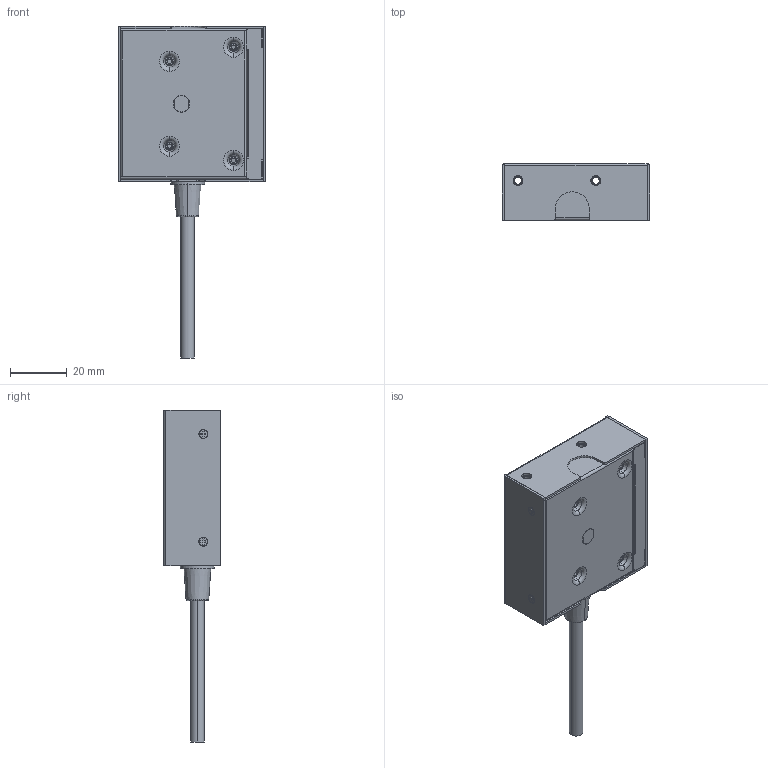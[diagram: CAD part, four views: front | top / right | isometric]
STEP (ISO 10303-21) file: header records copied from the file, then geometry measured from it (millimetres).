
FILE_DESCRIPTION((''),'2;1');
FILE_NAME('B04020-A01ASSY_ASM','2013-08-06T',('skomi0303'),(''),'PRO/ENGINEER BY PARAMETRIC TECHNOLOGY CORPORATION, 2005290','PRO/ENGINEER BY PARAMETRIC TECHNOLOGY CORPORATION, 2005290','');
FILE_SCHEMA(('CONFIG_CONTROL_DESIGN'));
Length unit declared in the file: millimetre
Products named in the file (12): F-70_MAIN_CHASSIS; B96009-05; BUSH; F-70_HOLDER; F-70_HOLDER_04; F-70_HOLDER_KOTEI; F-70_SCREW_2004; F-70_L_COVER; F-70_L_PLAMASK; F-70_L_MIRROR; NEJI_M2_SARA; B04020-A01ASSY_ASM
Assembly tree (14 placements, depth 2):
  B04020-A01ASSY_ASM
    F-70_MAIN_CHASSIS
    B96009-05
    BUSH
    F-70_HOLDER
    F-70_HOLDER_04
    F-70_HOLDER_KOTEI
    F-70_SCREW_2004
    F-70_L_COVER
    F-70_L_PLAMASK
    F-70_L_MIRROR
    NEJI_M2_SARA  x4
Bounding box: 52 x 20 x 117.35 mm (x, y, z)
Volume: 14279.5 mm3; surface area: 35069.2 mm2
Topology: 14 solids, 14 shells, 807 faces, 2038 edges, 1308 vertices
Faces by surface type: plane 401, cylinder 286, cone 62, torus 56, bspline 2
Entity records: 24791 total; most frequent: CARTESIAN_POINT 6015, DIRECTION 4054, ORIENTED_EDGE 3728, EDGE_CURVE 1864, AXIS2_PLACEMENT_3D 1476, VERTEX_POINT 1194, VECTOR 1102, LINE 1102
